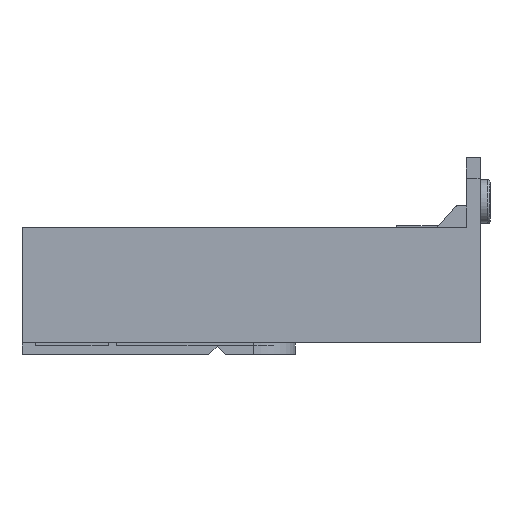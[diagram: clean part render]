
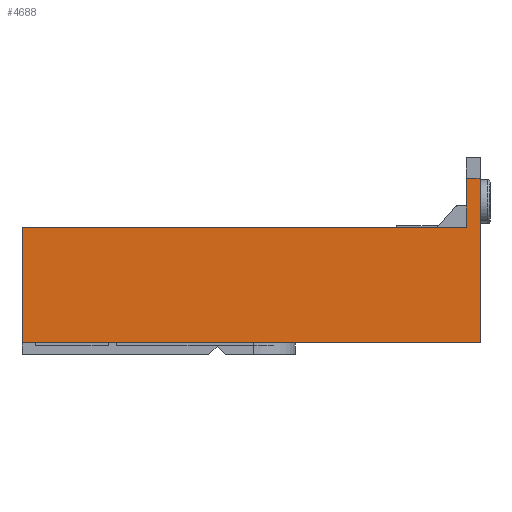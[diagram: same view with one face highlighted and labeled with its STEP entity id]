
A CAD part, left-side view. The second image highlights one B-rep face of the part: STEP entity #4688.
In plain terms, the highlighted planar face has unit normal (-1, 0, 0).
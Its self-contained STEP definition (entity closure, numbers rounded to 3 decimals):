
#332 = EDGE_LOOP ( 'NONE', ( #7441, #7443, #7446, #7448, #7449, #7451 ) ) ;
#504 = CARTESIAN_POINT ( 'NONE',  ( -69.8, 98.4, 24.8 ) ) ;
#505 = DIRECTION ( 'NONE',  ( 0., 0., -1. ) ) ;
#1343 = LINE ( 'NONE', #2446, #1346 ) ;
#1346 = VECTOR ( 'NONE', #2448, 1000. ) ;
#1712 = LINE ( 'NONE', #2929, #1715 ) ;
#1715 = VECTOR ( 'NONE', #2930, 1000. ) ;
#1830 = LINE ( 'NONE', #3071, #1833 ) ;
#1833 = VECTOR ( 'NONE', #3072, 1000. ) ;
#2014 = LINE ( 'NONE', #3268, #2017 ) ;
#2017 = VECTOR ( 'NONE', #3269, 1000. ) ;
#2161 = LINE ( 'NONE', #504, #2164 ) ;
#2164 = VECTOR ( 'NONE', #505, 1000. ) ;
#2446 = CARTESIAN_POINT ( 'NONE',  ( -69.8, 98.4, 0. ) ) ;
#2448 = DIRECTION ( 'NONE',  ( 0., -1., 0. ) ) ;
#2929 = CARTESIAN_POINT ( 'NONE',  ( -69.8, 0., 0. ) ) ;
#2930 = DIRECTION ( 'NONE',  ( 0., 0., 1. ) ) ;
#3071 = CARTESIAN_POINT ( 'NONE',  ( -69.8, 3., 24.8 ) ) ;
#3072 = DIRECTION ( 'NONE',  ( 0., 1., 0. ) ) ;
#3268 = CARTESIAN_POINT ( 'NONE',  ( -69.8, 3., 39.8 ) ) ;
#3269 = DIRECTION ( 'NONE',  ( 0., 0., -1. ) ) ;
#4442 = CARTESIAN_POINT ( 'NONE',  ( -69.8, 98.4, 24.8 ) ) ;
#4445 = CARTESIAN_POINT ( 'NONE',  ( -69.8, 98.4, 0. ) ) ;
#4688 = ADVANCED_FACE ( 'NONE', ( #15577 ), #5258, .T. ) ;
#5251 = CARTESIAN_POINT ( 'NONE',  ( -69.8, 98.4, 0. ) ) ;
#5258 = PLANE ( 'NONE',  #8887 ) ;
#5260 = DIRECTION ( 'NONE',  ( -1., 0., 0. ) ) ;
#5261 = DIRECTION ( 'NONE',  ( 0., 0., 1. ) ) ;
#5881 = CARTESIAN_POINT ( 'NONE',  ( -69.8, 0., 35.3 ) ) ;
#5896 = CARTESIAN_POINT ( 'NONE',  ( -69.8, 0., 0. ) ) ;
#6404 = CARTESIAN_POINT ( 'NONE',  ( -69.8, 9.727, 35.3 ) ) ;
#6405 = DIRECTION ( 'NONE',  ( 0., -1., 0. ) ) ;
#6805 = VERTEX_POINT ( 'NONE', #5881 ) ;
#6820 = VERTEX_POINT ( 'NONE', #5896 ) ;
#6896 = VERTEX_POINT ( 'NONE', #10999 ) ;
#6900 = VERTEX_POINT ( 'NONE', #11003 ) ;
#7441 = ORIENTED_EDGE ( 'NONE', *, *, #10456, .F. ) ;
#7443 = ORIENTED_EDGE ( 'NONE', *, *, #16005, .T. ) ;
#7446 = ORIENTED_EDGE ( 'NONE', *, *, #10906, .T. ) ;
#7448 = ORIENTED_EDGE ( 'NONE', *, *, #16079, .T. ) ;
#7449 = ORIENTED_EDGE ( 'NONE', *, *, #10625, .T. ) ;
#7451 = ORIENTED_EDGE ( 'NONE', *, *, #10841, .T. ) ;
#8887 = AXIS2_PLACEMENT_3D ( 'NONE', #5251, #5260, #5261 ) ;
#10097 = VERTEX_POINT ( 'NONE', #4442 ) ;
#10100 = VERTEX_POINT ( 'NONE', #4445 ) ;
#10456 = EDGE_CURVE ( 'NONE', #6900, #6805, #14106, .T. ) ;
#10625 = EDGE_CURVE ( 'NONE', #10100, #6820, #1343, .T. ) ;
#10841 = EDGE_CURVE ( 'NONE', #6820, #6805, #1712, .T. ) ;
#10906 = EDGE_CURVE ( 'NONE', #6896, #10097, #1830, .T. ) ;
#10999 = CARTESIAN_POINT ( 'NONE',  ( -69.8, 3., 24.8 ) ) ;
#11003 = CARTESIAN_POINT ( 'NONE',  ( -69.8, 3., 35.3 ) ) ;
#14106 = LINE ( 'NONE', #6404, #14109 ) ;
#14109 = VECTOR ( 'NONE', #6405, 1000. ) ;
#15577 = FACE_OUTER_BOUND ( 'NONE', #332, .T. ) ;
#16005 = EDGE_CURVE ( 'NONE', #6900, #6896, #2014, .T. ) ;
#16079 = EDGE_CURVE ( 'NONE', #10097, #10100, #2161, .T. ) ;
